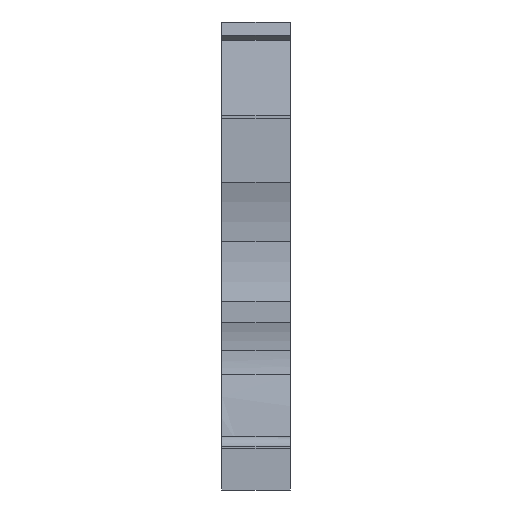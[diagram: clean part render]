
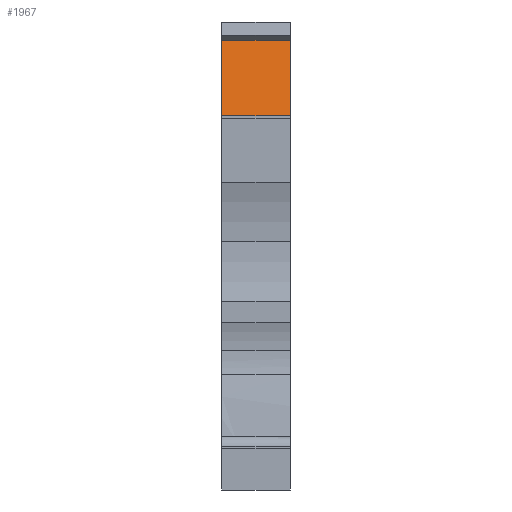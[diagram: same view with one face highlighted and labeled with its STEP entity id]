
A CAD part, front view. The second image highlights one B-rep face of the part: STEP entity #1967.
In plain terms, the highlighted planar face has unit normal (0, -0.985, 0.174).
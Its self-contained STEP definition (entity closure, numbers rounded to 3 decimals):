
#397=CARTESIAN_POINT('',(0.,1.553,27.759));
#398=VERTEX_POINT('',#397);
#405=CARTESIAN_POINT('',(0.,2.651,33.988));
#406=VERTEX_POINT('',#405);
#407=CARTESIAN_POINT('',(0.,1.553,27.759));
#408=DIRECTION('',(-0.,0.174,0.985));
#409=VECTOR('',#408,6.325);
#410=LINE('',#407,#409);
#411=EDGE_CURVE('',#398,#406,#410,.T.);
#1855=CARTESIAN_POINT('',(5.15,2.651,33.988));
#1856=VERTEX_POINT('',#1855);
#1857=CARTESIAN_POINT('',(5.15,2.651,33.988));
#1858=DIRECTION('',(-1.,0.,0.));
#1859=VECTOR('',#1858,5.15);
#1860=LINE('',#1857,#1859);
#1861=EDGE_CURVE('',#1856,#406,#1860,.T.);
#1944=CARTESIAN_POINT('',(5.15,1.553,27.759));
#1945=DIRECTION('',(0.,0.985,-0.174));
#1946=DIRECTION('',(0.,-0.174,-0.985));
#1947=AXIS2_PLACEMENT_3D('',#1944,#1945,#1946);
#1948=PLANE('',#1947);
#1949=ORIENTED_EDGE('',*,*,#1861,.T.);
#1950=ORIENTED_EDGE('',*,*,#411,.F.);
#1951=CARTESIAN_POINT('',(5.15,1.553,27.759));
#1952=VERTEX_POINT('',#1951);
#1953=CARTESIAN_POINT('',(0.,1.553,27.759));
#1954=DIRECTION('',(1.,-0.,-0.));
#1955=VECTOR('',#1954,5.15);
#1956=LINE('',#1953,#1955);
#1957=EDGE_CURVE('',#398,#1952,#1956,.T.);
#1958=ORIENTED_EDGE('',*,*,#1957,.T.);
#1959=CARTESIAN_POINT('',(5.15,2.651,33.988));
#1960=DIRECTION('',(0.,-0.174,-0.985));
#1961=VECTOR('',#1960,6.325);
#1962=LINE('',#1959,#1961);
#1963=EDGE_CURVE('',#1856,#1952,#1962,.T.);
#1964=ORIENTED_EDGE('',*,*,#1963,.F.);
#1965=EDGE_LOOP('',(#1949,#1950,#1958,#1964));
#1966=FACE_BOUND('',#1965,.T.);
#1967=ADVANCED_FACE('',(#1966),#1948,.F.);
